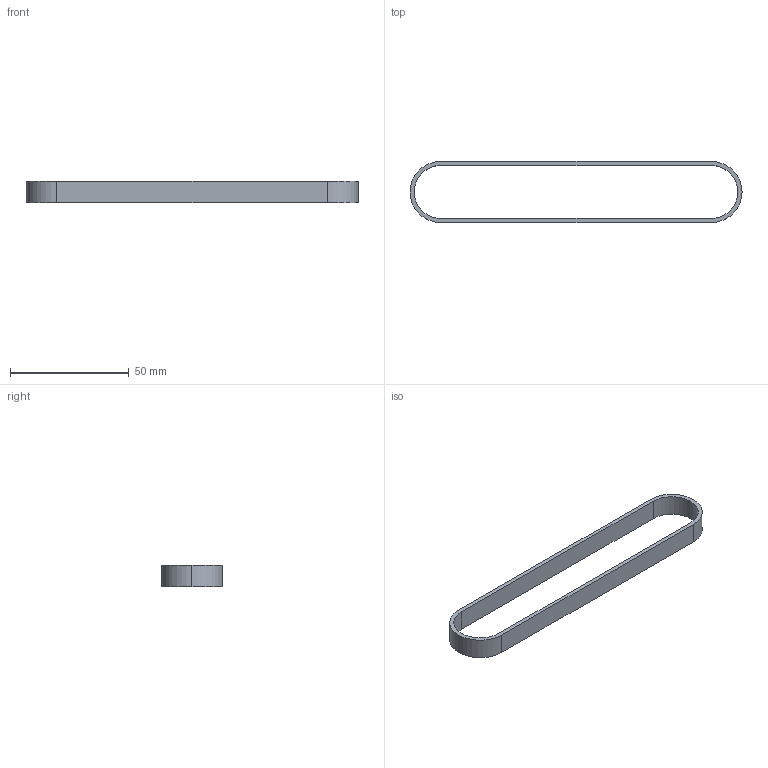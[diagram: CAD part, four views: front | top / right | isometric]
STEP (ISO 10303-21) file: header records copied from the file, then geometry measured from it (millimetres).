
FILE_DESCRIPTION (( 'STEP AP214' ), '1' );
FILE_NAME ('am-4902 300-5M-09 (60T) Belt.STEP', '2023-09-08T17:49:48', ( '' ), ( '' ), 'SwSTEP 2.0', 'SolidWorks 2022', '' );
FILE_SCHEMA (( 'AUTOMOTIVE_DESIGN' ));
Length unit declared in the file: inch
Products named in the file (1): am-4902 300-5M-09 (60T) Belt
Bounding box: 140.06 x 25.76 x 9 mm (x, y, z)
Volume: 4761.6 mm3; surface area: 6531.2 mm2
Topology: 1 solids, 1 shells, 12 faces, 30 edges, 20 vertices
Faces by surface type: cylinder 6, plane 6
Entity records: 410 total; most frequent: DIRECTION 68, CARTESIAN_POINT 63, ORIENTED_EDGE 60, EDGE_CURVE 30, AXIS2_PLACEMENT_3D 25, VERTEX_POINT 20, LINE 18, VECTOR 18
